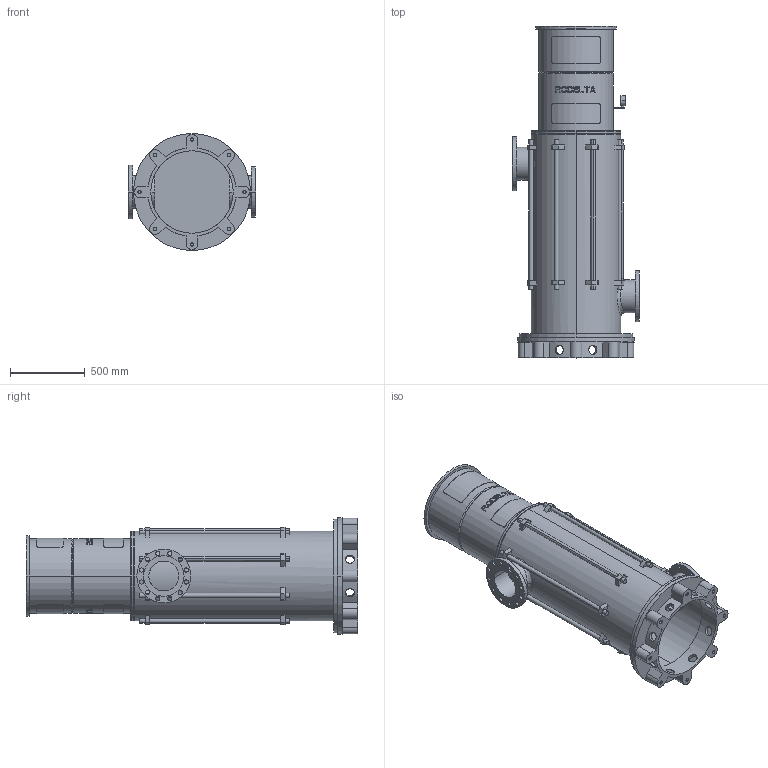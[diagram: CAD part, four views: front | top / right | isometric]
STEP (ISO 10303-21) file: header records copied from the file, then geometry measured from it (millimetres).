
FILE_DESCRIPTION((''),'2;1');
FILE_NAME('LS8_3TR_0GR','2025-10-17T13:48:00',('Lyritlocal'),(''),'CREO PARAMETRIC BY PTC INC, 2022014','CREO PARAMETRIC BY PTC INC, 2022014','');
FILE_SCHEMA(('CONFIG_CONTROL_DESIGN'));
Length unit declared in the file: millimetre
Products named in the file (1): LS8_3TR_0GR
Bounding box: 850 x 2214 x 780 mm (x, y, z)
Volume: 77041246 mm3; surface area: 10861973.7 mm2
Topology: 3 solids, 11 shells, 723 faces, 1878 edges, 1246 vertices
Faces by surface type: plane 440, cylinder 267, cone 12, bspline 4
Entity records: 23715 total; most frequent: CARTESIAN_POINT 6034, ORIENTED_EDGE 3724, DIRECTION 3488, EDGE_CURVE 1878, AXIS2_PLACEMENT_3D 1302, VERTEX_POINT 1246, EDGE_LOOP 888, VECTOR 884
